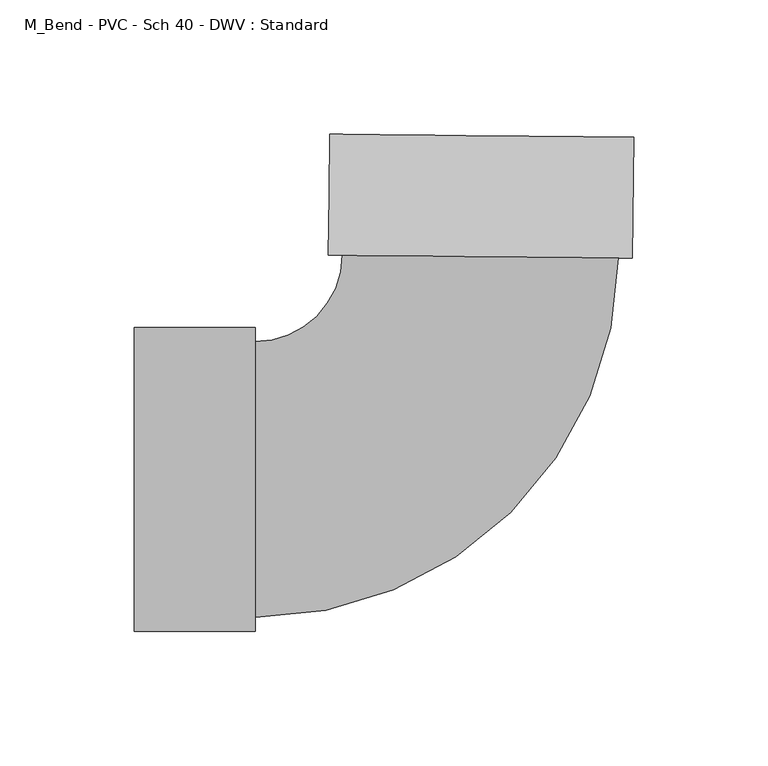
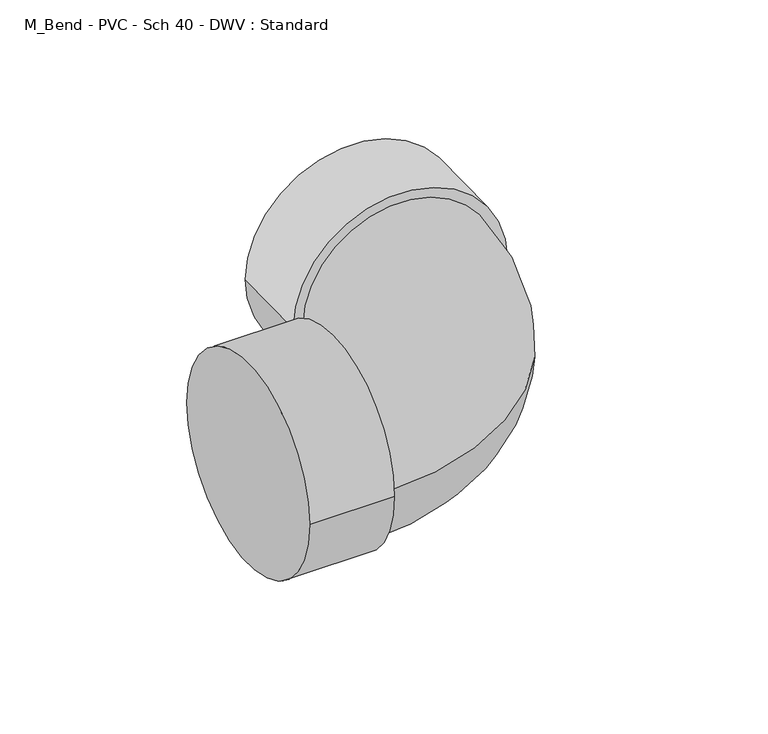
"""IFC4 building model written with IfcOpenShell, lengths in millimetres: pipe fitting geometry, M_Bend - PVC - Sch 40 - DWV : Standard."""

from ifc_helpers import new_model, si_unit, point, frame, origin, place, context, project, spatial, circle_curve, ellipse_curve, trimmed, source, transform, mapped, element, save
from ifc_brep_helpers import plane_surface, cylinder_surface, revolved_surface, advanced_brep


def m_bend_pvc_sch_40_dwv_standard_bd716fa2(model_context):
    return source(origin(), model_context, "Body", "AdvancedBrep", [
        advanced_brep(
        [(-128.0140625, -56.5871094, 0.0), (-128.0140625, 56.5871094, 0.0), (-83.0140625, -56.5871094, 0.0), (-83.0140625, 56.5871094, 0.0), (-83.0140625, -51.3640625, 0.0), (-83.0140625, 51.3640625, 0.0), (-50.5313954, 83.5235271, 0.0), (52.1915936, 82.4962972, 0.0), (57.4143794, 82.4440693, 0.0), (-55.7541811, 83.5757549, 0.0), (57.8643569, 127.4418195, 0.0), (-55.3042036, 128.5735051, 0.0)],
        [
            (0, 1, circle_curve(frame((-128.0140625, 0.0, 0.0), z_axis=(-1.0, 0.0, 0.0), x_axis=(0.0, 1.0, 0.0)), 56.5871094)),
            (1, 0, circle_curve(frame((-128.0140625, 0.0, 0.0), z_axis=(-1.0, 0.0, 0.0), x_axis=(0.0, 1.0, 0.0)), 56.5871094)),
            (2, 3, circle_curve(frame((-83.0140625, 0.0, 0.0), z_axis=(1.0, 0.0, 0.0), x_axis=(0.0, 1.0, 0.0)), 56.5871094)),
            (3, 2, circle_curve(frame((-83.0140625, 0.0, 0.0), z_axis=(1.0, 0.0, 0.0), x_axis=(0.0, 1.0, 0.0)), 56.5871094)),
            (4, 5, circle_curve(frame((-83.0140625, 0.0, 0.0), z_axis=(-1.0, 0.0, 0.0), x_axis=(0.0, 1.0, 0.0)), 51.3640625)),
            (5, 4, circle_curve(frame((-83.0140625, 0.0, 0.0), z_axis=(-1.0, 0.0, 0.0), x_axis=(0.0, 1.0, 0.0)), 51.3640625)),
            (0, 2),
            (3, 1),
            (6, 5, circle_curve(frame((-83.0140625, 83.8483537, 0.0), z_axis=(0.0, 0.0, -1.0), x_axis=(0.0, -1.0, 0.0)), 32.4842912)),
            (4, 7, circle_curve(frame((-83.0140625, 83.8483537, 0.0), z_axis=(0.0, 0.0, 1.0), x_axis=(0.0, -1.0, 0.0)), 135.2124162)),
            (7, 6, circle_curve(frame((0.8300991, 83.0099121, 0.0), z_axis=(-0.009999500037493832, -0.9999500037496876, 0.0), x_axis=(-0.9999500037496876, 0.009999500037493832, 0.0)), 51.3640625)),
            (6, 7, circle_curve(frame((0.8300991, 83.0099121, 0.0), z_axis=(-0.009999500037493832, -0.9999500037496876, 0.0), x_axis=(-0.9999500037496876, 0.009999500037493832, 0.0)), 51.3640625)),
            (8, 9, circle_curve(frame((0.8300991, 83.0099121, 0.0), z_axis=(-0.00999950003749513, -0.9999500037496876, 0.0), x_axis=(-0.9999500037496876, 0.00999950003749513, 0.0)), 56.5871094)),
            (9, 8, circle_curve(frame((0.8300991, 83.0099121, 0.0), z_axis=(-0.00999950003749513, -0.9999500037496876, 0.0), x_axis=(-0.9999500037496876, 0.00999950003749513, 0.0)), 56.5871094)),
            (10, 11, circle_curve(frame((1.2800766, 128.0076623, 0.0), z_axis=(0.00999950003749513, 0.9999500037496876, 0.0), x_axis=(-0.9999500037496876, 0.00999950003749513, 0.0)), 56.5871094)),
            (11, 10, circle_curve(frame((1.2800766, 128.0076623, 0.0), z_axis=(0.00999950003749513, 0.9999500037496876, 0.0), x_axis=(-0.9999500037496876, 0.00999950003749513, 0.0)), 56.5871094)),
            (8, 10),
            (11, 9),
        ],
        [
            plane_surface(frame((-128.0140625, 0.0, 0.0), z_axis=(-1.0, 0.0, 0.0), x_axis=(0.0, 0.0, 1.0))),
            plane_surface(frame((-83.0140625, 0.0, 0.0), z_axis=(1.0, 0.0, 0.0), x_axis=(0.0, 0.0, 1.0))),
            cylinder_surface(frame((-128.0140625, 0.0, 0.0), z_axis=(-1.0, 0.0, 0.0), x_axis=(0.0, 1.0, 0.0)), 56.5871094),
            revolved_surface(trimmed(ellipse_curve(frame((-83.0140625, 0.0, 0.0), z_axis=(-1.0, 0.0, 0.0), x_axis=(0.0, 1.0, 0.0)), 51.3640625, 51.3640625), [point((-83.0140625, -51.3640625, 0.0))], [point((-83.0140625, 51.3640625, 0.0))], True, "CARTESIAN"), (-83.0140625, 83.8483537, 0.0), (0.0, 0.0, 1.0)),
            revolved_surface(trimmed(ellipse_curve(frame((-83.0140625, 0.0, 0.0), z_axis=(-1.0, 0.0, 0.0), x_axis=(0.0, 1.0, 0.0)), 51.3640625, 51.3640625), [point((-83.0140625, 51.3640625, 0.0))], [point((-83.0140625, -51.3640625, 0.0))], True, "CARTESIAN"), (-83.0140625, 83.8483537, 0.0), (0.0, 0.0, 1.0)),
            plane_surface(frame((0.8300991, 83.0099121, 0.0), z_axis=(-0.00999950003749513, -0.9999500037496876, 0.0), x_axis=(0.0, 0.0, 1.0))),
            plane_surface(frame((1.2800766, 128.0076623, 0.0), z_axis=(0.00999950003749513, 0.9999500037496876, 0.0), x_axis=(0.0, 0.0, 1.0))),
            cylinder_surface(frame((0.8300991, 83.0099121, 0.0), z_axis=(-0.00999950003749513, -0.9999500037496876, 0.0), x_axis=(-0.9999500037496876, 0.00999950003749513, 0.0)), 56.5871094),
        ],
        [
            (0, [[1, 2]]),
            (1, [[3, 4], [5, 6]]),
            (2, [[-1, 7, -4, 8]]),
            (2, [[-2, -8, -3, -7]]),
            (3, [[9, -5, 10, 11]]),
            (4, [[-9, 12, -10, -6]]),
            (5, [[13, 14], [-11, -12]]),
            (6, [[15, 16]]),
            (7, [[-13, 17, -16, 18]]),
            (7, [[-14, -18, -15, -17]]),
        ],
    ),
    ])


if __name__ == "__main__":
    model = new_model("IFC4")
    model_context = context("Model", 3, world=origin())
    ifc_project = project(units=[si_unit("LENGTHUNIT", "METRE", prefix="MILLI")], contexts=[model_context])
    site = spatial("IfcSite", under=ifc_project)
    building = spatial("IfcBuilding", under=site)
    placement = place(None, origin())
    m_bend_pvc_sch_40_dwv_standard_shape = m_bend_pvc_sch_40_dwv_standard_bd716fa2(model_context)
    element("IfcPipeFitting", 1, ObjectType="M_Bend - PVC - Sch 40 - DWV : Standard", at=placement, inside=building, context=model_context, shape_type="MappedRepresentation", body=[
        mapped(m_bend_pvc_sch_40_dwv_standard_shape, transform((0.0, 0.0, 0.0), x_axis=(1.0, 0.0, 0.0), y_axis=(0.0, 1.0, 0.0), z_axis=(0.0, 0.0, 1.0))),
    ])
    save(model, "model.ifc")
